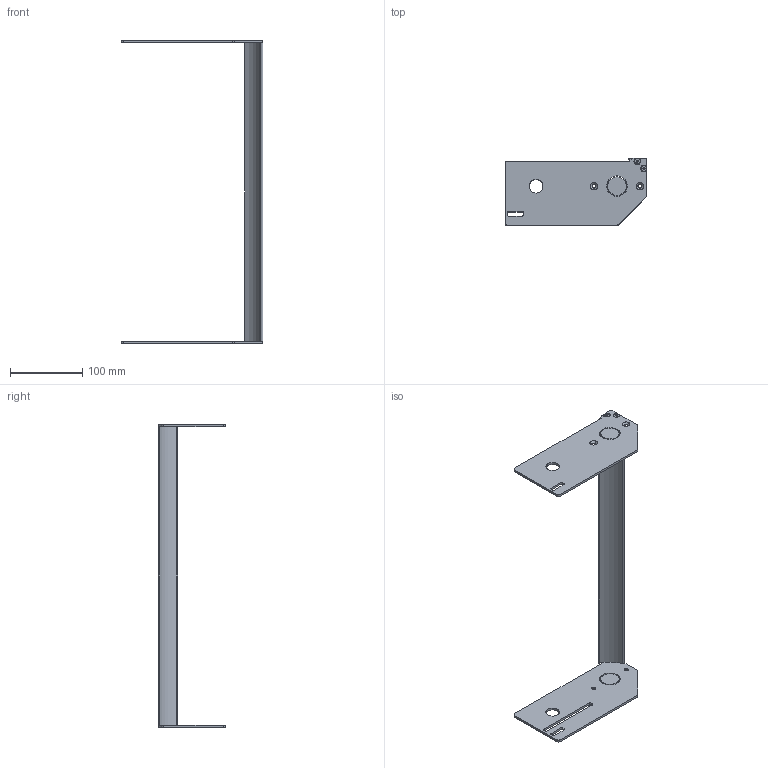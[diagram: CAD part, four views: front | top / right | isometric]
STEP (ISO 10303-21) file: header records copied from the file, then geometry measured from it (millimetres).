
FILE_DESCRIPTION((''),'2;1');
FILE_NAME('351040-16_ASM','2023-03-15T',('jenni.wallner'),(''),'PRO/ENGINEER BY PARAMETRIC TECHNOLOGY CORPORATION, 2012420','PRO/ENGINEER BY PARAMETRIC TECHNOLOGY CORPORATION, 2012420','');
FILE_SCHEMA(('CONFIG_CONTROL_DESIGN'));
Length unit declared in the file: inch
Products named in the file (6): 350538; 9304XXM_930410M; 350537; 350539-WW_350539-16; ASM0001_ASM; 351040-16_ASM
Assembly tree (8 placements, depth 3):
  351040-16_ASM
    ASM0001_ASM
      350538
      9304XXM_930410M  x4
      350537
      350539-WW_350539-16
Bounding box: 196.06 x 92.74 x 418.74 mm (x, y, z)
Volume: 216020.3 mm3; surface area: 115782.9 mm2
Topology: 7 solids, 7 shells, 216 faces, 536 edges, 334 vertices
Faces by surface type: cylinder 80, plane 76, cone 60
Entity records: 4970 total; most frequent: CARTESIAN_POINT 906, DIRECTION 885, ORIENTED_EDGE 790, EDGE_CURVE 395, AXIS2_PLACEMENT_3D 339, VERTEX_POINT 256, VECTOR 207, LINE 207
